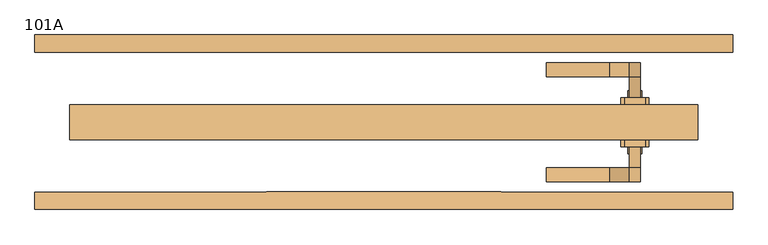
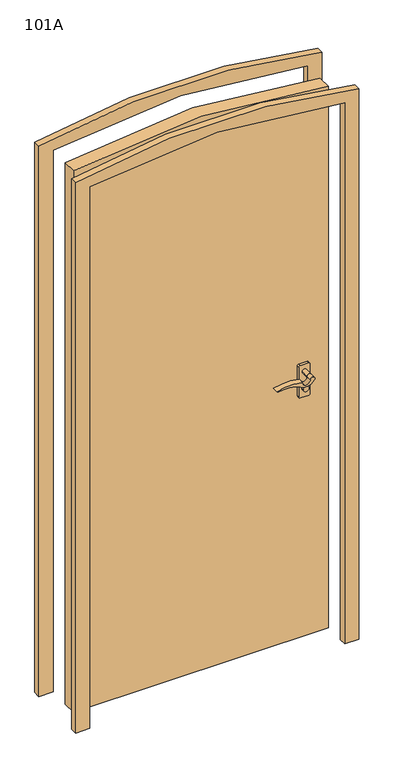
"""IFC4 building model written with IfcOpenShell, lengths in millimetres: door geometry, 单开门 : 101A."""

from ifc_helpers import new_model, si_unit, point, frame, frame_2d, origin, place, context, project, spatial, polyline, circle_curve, trimmed, segment, composite_curve, outline, extrude, source, transform, mapped, element, save
from ifc_brep_helpers import plane_surface, cylinder_surface, revolved_surface, advanced_brep


def door_101a_c2ac0952(model_context):
    return source(origin(), model_context, "Body", "SolidModel", [
        extrude(outline(composite_curve([segment(trimmed(circle_curve(frame_2d((935.0, 360.0)), 10.0), [point((935.0, 350.0))], [point((935.0, 370.0))], False, "CARTESIAN"), True, "CONTINUOUS"), segment(trimmed(circle_curve(frame_2d((935.0, 360.0)), 10.0), [point((935.0, 370.0))], [point((935.0, 350.0))], False, "CARTESIAN"), True, "CONTINUOUS")], self_intersect=False)), frame((0.0, 35.0, 0.0), z_axis=(0.0, 1.0, 0.0), x_axis=(0.0, 0.0, 1.0)), (0.0, 0.0, 1.0), 10.0),
        extrude(outline(composite_curve([segment(trimmed(circle_curve(frame_2d((935.0, 360.0)), 10.0), [point((935.0, 350.0))], [point((935.0, 370.0))], False, "CARTESIAN"), True, "CONTINUOUS"), segment(trimmed(circle_curve(frame_2d((935.0, 360.0)), 10.0), [point((935.0, 370.0))], [point((935.0, 350.0))], False, "CARTESIAN"), True, "CONTINUOUS")], self_intersect=False)), frame((0.0, -45.0, 0.0), z_axis=(0.0, 1.0, 0.0), x_axis=(0.0, 0.0, 1.0)), (0.0, 0.0, 1.0), 10.0),
        extrude(outline(composite_curve([segment(trimmed(circle_curve(frame_2d((995.0, 360.0)), 8.0000034), [point((990.3476652, 366.5081361))], [point((995.0, 351.9999966))], False, "CARTESIAN"), True, "CONTINUOUS"), segment(trimmed(circle_curve(frame_2d((995.0, 338.1440719)), 13.8559247), [point((995.0, 351.9999966))], [point((994.6945887, 324.2915135))], True, "CARTESIAN"), True, "CONTINUOUS"), segment(trimmed(circle_curve(frame_2d((820.9182734, 282.528364)), 178.7242804), [point((994.6945887, 324.2915135))], [point((992.6849677, 233.1464732))], False, "CARTESIAN"), True, "CONTINUOUS"), segment(polyline([(992.6849677, 233.1464732), (989.1494307, 236.6820064)]), True, "CONTINUOUS"), segment(trimmed(circle_curve(frame_2d((876.1214485, 264.8248803)), 116.4789514), [point((989.1494307, 236.6820064))], [point((979.2382475, 318.9938003))], True, "CARTESIAN"), True, "CONTINUOUS"), segment(trimmed(circle_curve(frame_2d((1012.2444372, 336.3324848)), 37.2832209), [point((979.2382475, 318.9938003))], [point((990.3476652, 366.5081361))], False, "CARTESIAN"), True, "CONTINUOUS")], self_intersect=False)), frame((0.0, 65.0, 0.0), z_axis=(0.0, 1.0, 0.0), x_axis=(0.0, 0.0, 1.0)), (0.0, 0.0, 1.0), 20.0),
        extrude(outline(composite_curve([segment(trimmed(circle_curve(frame_2d((995.0000265, 338.1440739)), 13.8559261), [point((995.0000097, 352.0))], [point((994.6945968, 324.2915145))], True, "CARTESIAN"), True, "CONTINUOUS"), segment(trimmed(circle_curve(frame_2d((820.9182829, 282.5283658)), 178.7242789), [point((994.6945968, 324.2915145))], [point((992.6849752, 233.1464736))], False, "CARTESIAN"), True, "CONTINUOUS"), segment(polyline([(992.6849752, 233.1464736), (989.1494413, 236.6820075)]), True, "CONTINUOUS"), segment(trimmed(circle_curve(frame_2d((876.1214595, 264.8248807)), 116.4789508), [point((989.1494413, 236.6820075))], [point((979.2382573, 318.9938016))], True, "CARTESIAN"), True, "CONTINUOUS"), segment(trimmed(circle_curve(frame_2d((1012.2444479, 336.3324871)), 37.2832219), [point((979.2382573, 318.9938016))], [point((990.3476713, 366.5081363))], False, "CARTESIAN"), True, "CONTINUOUS"), segment(trimmed(circle_curve(frame_2d((995.0, 360.0)), 8.0), [point((990.3476713, 366.5081363))], [point((995.0000097, 352.0))], False, "CARTESIAN"), True, "CONTINUOUS")], self_intersect=False)), frame((0.0, -85.0, 0.0), z_axis=(0.0, 1.0, 0.0), x_axis=(0.0, 0.0, 1.0)), (0.0, 0.0, 1.0), 20.0),
        extrude(outline(composite_curve([segment(trimmed(circle_curve(frame_2d((995.0, 360.0)), 8.0), [point((995.0, 352.0))], [point((995.0, 368.0))], False, "CARTESIAN"), True, "CONTINUOUS"), segment(trimmed(circle_curve(frame_2d((995.0, 360.0)), 8.0), [point((995.0, 368.0))], [point((995.0, 352.0))], False, "CARTESIAN"), True, "CONTINUOUS")], self_intersect=False)), frame((0.0, 35.0, 0.0), z_axis=(0.0, 1.0, 0.0), x_axis=(0.0, 0.0, 1.0)), (0.0, 0.0, 1.0), 30.0),
        extrude(outline(composite_curve([segment(trimmed(circle_curve(frame_2d((995.0, 360.0)), 8.0), [point((995.0, 352.0))], [point((995.0, 368.0))], False, "CARTESIAN"), True, "CONTINUOUS"), segment(trimmed(circle_curve(frame_2d((995.0, 360.0)), 8.0), [point((995.0, 368.0))], [point((995.0, 352.0))], False, "CARTESIAN"), True, "CONTINUOUS")], self_intersect=False)), frame((0.0, -65.0, 0.0), z_axis=(0.0, 1.0, 0.0), x_axis=(0.0, 0.0, 1.0)), (0.0, 0.0, 1.0), 30.0),
        extrude(outline(composite_curve([segment(polyline([(905.0, 380.0), (1015.0, 380.0)]), True, "CONTINUOUS"), segment(trimmed(circle_curve(frame_2d((1015.0, 375.0)), 5.0), [point((1015.0, 380.0))], [point((1020.0, 375.0))], False, "CARTESIAN"), True, "CONTINUOUS"), segment(polyline([(1020.0, 375.0), (1020.0, 345.0)]), True, "CONTINUOUS"), segment(trimmed(circle_curve(frame_2d((1015.0, 345.0)), 5.0), [point((1020.0, 345.0))], [point((1015.0, 340.0))], False, "CARTESIAN"), True, "CONTINUOUS"), segment(polyline([(1015.0, 340.0), (905.0, 340.0)]), True, "CONTINUOUS"), segment(trimmed(circle_curve(frame_2d((905.0, 345.0)), 5.0), [point((905.0, 340.0))], [point((900.0, 345.0))], False, "CARTESIAN"), True, "CONTINUOUS"), segment(polyline([(900.0, 345.0), (900.0, 375.0)]), True, "CONTINUOUS"), segment(trimmed(circle_curve(frame_2d((905.0, 375.0)), 5.0), [point((900.0, 375.0))], [point((905.0, 380.0))], False, "CARTESIAN"), True, "CONTINUOUS")], self_intersect=False)), frame((0.0, 25.0, 0.0), z_axis=(0.0, 1.0, 0.0), x_axis=(0.0, 0.0, 1.0)), (0.0, 0.0, 1.0), 10.0),
        extrude(outline(composite_curve([segment(polyline([(905.0, 380.0), (1015.0, 380.0)]), True, "CONTINUOUS"), segment(trimmed(circle_curve(frame_2d((1015.0, 375.0)), 5.0), [point((1015.0, 380.0))], [point((1020.0, 375.0))], False, "CARTESIAN"), True, "CONTINUOUS"), segment(polyline([(1020.0, 375.0), (1020.0, 345.0)]), True, "CONTINUOUS"), segment(trimmed(circle_curve(frame_2d((1015.0, 345.0)), 5.0), [point((1020.0, 345.0))], [point((1015.0, 340.0))], False, "CARTESIAN"), True, "CONTINUOUS"), segment(polyline([(1015.0, 340.0), (905.0, 340.0)]), True, "CONTINUOUS"), segment(trimmed(circle_curve(frame_2d((905.0, 345.0)), 5.0), [point((905.0, 340.0))], [point((900.0, 345.0))], False, "CARTESIAN"), True, "CONTINUOUS"), segment(polyline([(900.0, 345.0), (900.0, 375.0)]), True, "CONTINUOUS"), segment(trimmed(circle_curve(frame_2d((905.0, 375.0)), 5.0), [point((900.0, 375.0))], [point((905.0, 380.0))], False, "CARTESIAN"), True, "CONTINUOUS")], self_intersect=False)), frame((0.0, -35.0, 0.0), z_axis=(0.0, 1.0, 0.0), x_axis=(0.0, 0.0, 1.0)), (0.0, 0.0, 1.0), 10.0),
        advanced_brep(
        [(450.0, -25.0, 2020.0), (-450.0, -25.0, 2020.0), (-450.0, -25.0, 0.0), (450.0, -25.0, 0.0), (450.0, 25.0, 2020.0), (450.0, 25.0, 0.0), (-450.0, 25.0, 0.0), (-450.0, 25.0, 2020.0), (-250.0, 25.0, 800.0), (-250.0, 25.0, 300.0), (250.0, 25.0, 300.0), (250.0, 25.0, 800.0), (-250.0, 25.0, 1000.0), (250.0, 25.0, 1000.0), (250.0, 25.0, 1940.3379704), (-250.0, 25.0, 1940.3379704), (-250.0, 15.0, 800.0), (250.0, 15.0, 800.0), (250.0, 15.0, 300.0), (-250.0, 15.0, 300.0), (-250.0, 15.0, 1000.0), (-250.0, 15.0, 1940.3379704), (250.0, 15.0, 1940.3379704), (250.0, 15.0, 1000.0)],
        [
            (0, 1, circle_curve(frame((0.0, -25.0, -140.0), z_axis=(0.0, -1.0, 0.0), x_axis=(1.0, 0.0, 0.0)), 2206.377121)),
            (1, 2),
            (2, 3),
            (3, 0),
            (4, 5),
            (5, 6),
            (6, 7),
            (7, 4, circle_curve(frame((0.0, 25.0, -140.0), z_axis=(0.0, 1.0, 0.0), x_axis=(1.0, 0.0, 0.0)), 2206.377121)),
            (8, 9),
            (9, 10),
            (10, 11),
            (11, 8),
            (12, 13),
            (13, 14),
            (14, 15, circle_curve(frame((0.0, 25.0, -82.5679794), z_axis=(0.0, -1.0, 0.0), x_axis=(1.0, 0.0, 0.0)), 2038.2954844)),
            (15, 12),
            (0, 4),
            (7, 1),
            (6, 2),
            (5, 3),
            (16, 17),
            (17, 18),
            (18, 19),
            (19, 16),
            (20, 21),
            (21, 22, circle_curve(frame((0.0, 15.0, -82.5679794), z_axis=(0.0, 1.0, 0.0), x_axis=(1.0, 0.0, 0.0)), 2038.2954844)),
            (22, 23),
            (23, 20),
            (19, 9),
            (8, 16),
            (18, 10),
            (17, 11),
            (23, 13),
            (12, 20),
            (22, 14),
            (21, 15),
        ],
        [
            plane_surface(frame((2206.377121, -25.0, -140.0), z_axis=(0.0, -1.0, 0.0), x_axis=(0.0, 0.0, 1.0))),
            plane_surface(frame((2206.377121, 25.0, -140.0), z_axis=(0.0, 1.0, 0.0), x_axis=(0.0, 0.0, -1.0))),
            cylinder_surface(frame((0.0, 25.0, -140.0), z_axis=(0.0, -1.0, 0.0), x_axis=(1.0, 0.0, 0.0)), 2206.377121),
            plane_surface(frame((-450.0, -25.0, 2020.0), z_axis=(-1.0, 0.0, 0.0), x_axis=(0.0, 1.0, 0.0))),
            plane_surface(frame((-450.0, -25.0, 0.0), z_axis=(0.0, 0.0, -1.0), x_axis=(0.0, 1.0, 0.0))),
            plane_surface(frame((-250.0, 15.0, 800.0), z_axis=(0.0, 1.0, 0.0), x_axis=(0.0, 0.0, -1.0))),
            plane_surface(frame((-250.0, 15.0, 800.0), z_axis=(1.0, 0.0, 0.0), x_axis=(0.0, 1.0, 0.0))),
            plane_surface(frame((-250.0, 15.0, 300.0), z_axis=(0.0, 0.0, 1.0), x_axis=(0.0, 1.0, 0.0))),
            plane_surface(frame((250.0, 15.0, 300.0), z_axis=(-1.0, 0.0, 0.0), x_axis=(0.0, 1.0, 0.0))),
            plane_surface(frame((250.0, 15.0, 800.0), z_axis=(0.0, 0.0, -1.0), x_axis=(0.0, 1.0, 0.0))),
            plane_surface(frame((-250.0, 15.0, 1000.0), z_axis=(0.0, 0.0, 1.0), x_axis=(0.0, 1.0, 0.0))),
            plane_surface(frame((250.0, 15.0, 1000.0), z_axis=(-1.0, 0.0, 0.0), x_axis=(0.0, 1.0, 0.0))),
            revolved_surface(polyline([(2038.2954844, 15.0, -82.5679794), (2038.2954844, 25.0, -82.5679794)]), (0.0, 25.0, -82.5679794), (0.0, -1.0, 0.0)),
            plane_surface(frame((-250.0, 15.0, 1940.3379704), z_axis=(1.0, 0.0, 0.0), x_axis=(0.0, 1.0, 0.0))),
            plane_surface(frame((450.0, -25.0, 0.0), z_axis=(1.0, 0.0, 0.0), x_axis=(0.0, 1.0, 0.0))),
        ],
        [
            (0, [[1, 2, 3, 4]]),
            (1, [[5, 6, 7, 8], [9, 10, 11, 12], [13, 14, 15, 16]]),
            (2, [[-1, 17, -8, 18]]),
            (3, [[-2, -18, -7, 19]]),
            (4, [[-3, -19, -6, 20]]),
            (5, [[21, 22, 23, 24]]),
            (5, [[25, 26, 27, 28]]),
            (6, [[-24, 29, -9, 30]]),
            (7, [[-23, 31, -10, -29]]),
            (8, [[-22, 32, -11, -31]]),
            (9, [[-21, -30, -12, -32]]),
            (10, [[-28, 33, -13, 34]]),
            (11, [[-27, 35, -14, -33]]),
            (12, [[-26, 36, -15, -35]]),
            (13, [[-25, -34, -16, -36]]),
            (14, [[-4, -20, -5, -17]]),
        ],
    ),
        extrude(outline(composite_curve([segment(trimmed(circle_curve(frame_2d((-140.0, 0.0)), 2206.377121), [point((2020.0, -450.0))], [point((2020.0, 450.0))], True, "CARTESIAN"), True, "CONTINUOUS"), segment(polyline([(2020.0, 450.0), (0.0, 450.0), (0.0, 500.0), (2053.0800259, 500.0)]), True, "CONTINUOUS"), segment(trimmed(circle_curve(frame_2d((-140.0, 0.0)), 2249.3554632), [point((2053.0800259, 500.0))], [point((2053.0800259, -500.0))], False, "CARTESIAN"), True, "CONTINUOUS"), segment(polyline([(2053.0800259, -500.0), (0.0, -500.0), (0.0, -450.0), (2020.0, -450.0)]), True, "CONTINUOUS")], self_intersect=False)), frame((0.0, 100.0, 0.0), z_axis=(0.0, 1.0, 0.0), x_axis=(0.0, 0.0, 1.0)), (0.0, 0.0, 1.0), 25.0),
        extrude(outline(composite_curve([segment(polyline([(2053.0800259, -500.0), (0.0, -500.0), (0.0, -450.0), (2020.0, -450.0)]), True, "CONTINUOUS"), segment(trimmed(circle_curve(frame_2d((-140.0, 0.0)), 2206.377121), [point((2020.0, -450.0))], [point((2020.0, 450.0))], True, "CARTESIAN"), True, "CONTINUOUS"), segment(polyline([(2020.0, 450.0), (0.0, 450.0), (0.0, 500.0), (2053.0800259, 500.0)]), True, "CONTINUOUS"), segment(trimmed(circle_curve(frame_2d((-140.0, 0.0)), 2249.3554632), [point((2053.0800259, 500.0))], [point((2053.0800259, -500.0))], False, "CARTESIAN"), True, "CONTINUOUS")], self_intersect=False)), frame((0.0, -125.0, 0.0), z_axis=(0.0, 1.0, 0.0), x_axis=(0.0, 0.0, 1.0)), (0.0, 0.0, 1.0), 25.0),
    ])


if __name__ == "__main__":
    model = new_model("IFC4")
    model_context = context("Model", 3, world=origin())
    ifc_project = project(units=[si_unit("LENGTHUNIT", "METRE", prefix="MILLI")], contexts=[model_context])
    site = spatial("IfcSite", under=ifc_project)
    building = spatial("IfcBuilding", under=site)
    placement = place(None, origin())
    door_101a_shape = door_101a_c2ac0952(model_context)
    element("IfcDoor", 1, ObjectType="单开门 : 101A", at=placement, inside=building, context=model_context, shape_type="MappedRepresentation", body=[
        mapped(door_101a_shape, transform((0.0, 0.0, 0.0), x_axis=(1.0, 0.0, 0.0), y_axis=(0.0, 1.0, 0.0), z_axis=(0.0, 0.0, 1.0))),
    ])
    save(model, "model.ifc")
